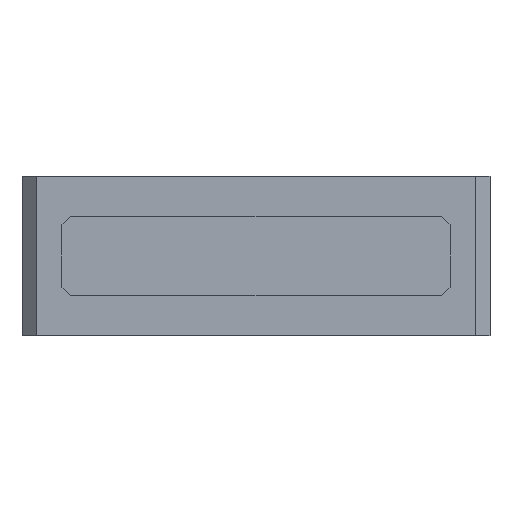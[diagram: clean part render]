
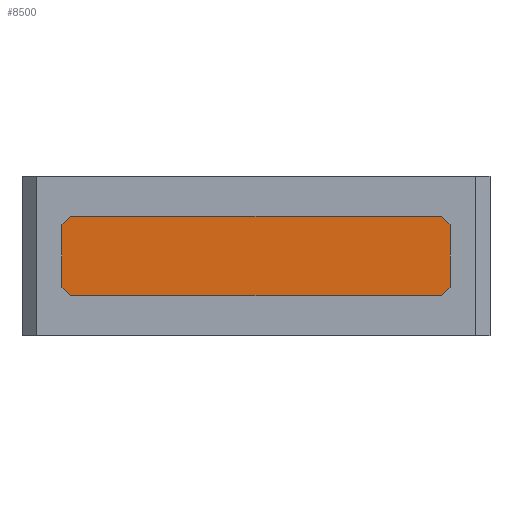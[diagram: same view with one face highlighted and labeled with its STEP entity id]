
A CAD part, front view. The second image highlights one B-rep face of the part: STEP entity #8500.
In plain terms, the highlighted planar face has unit normal (0, -1, 0).
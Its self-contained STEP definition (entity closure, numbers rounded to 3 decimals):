
#157 = PLANE('',#158);
#158 = AXIS2_PLACEMENT_3D('',#159,#160,#161);
#159 = CARTESIAN_POINT('',(-34.,-54.65,8.5));
#160 = DIRECTION('',(0.707,0.,0.707));
#161 = DIRECTION('',(0.707,0.,-0.707)
  );
#183 = PLANE('',#184);
#184 = AXIS2_PLACEMENT_3D('',#185,#186,#187);
#185 = CARTESIAN_POINT('',(-32.5,-54.65,7.));
#186 = DIRECTION('',(0.,0.,1.));
#187 = DIRECTION('',(1.,0.,0.));
#209 = PLANE('',#210);
#210 = AXIS2_PLACEMENT_3D('',#211,#212,#213);
#211 = CARTESIAN_POINT('',(32.5,-54.65,7.));
#212 = DIRECTION('',(-0.707,0.,0.707)
  );
#213 = DIRECTION('',(0.707,0.,0.707));
#235 = PLANE('',#236);
#236 = AXIS2_PLACEMENT_3D('',#237,#238,#239);
#237 = CARTESIAN_POINT('',(34.,-54.65,8.5));
#238 = DIRECTION('',(-1.,0.,0.));
#239 = DIRECTION('',(0.,0.,1.));
#261 = PLANE('',#262);
#262 = AXIS2_PLACEMENT_3D('',#263,#264,#265);
#263 = CARTESIAN_POINT('',(34.,-54.65,19.5));
#264 = DIRECTION('',(-0.707,0.,-0.707
    ));
#265 = DIRECTION('',(-0.707,0.,0.707)
  );
#287 = PLANE('',#288);
#288 = AXIS2_PLACEMENT_3D('',#289,#290,#291);
#289 = CARTESIAN_POINT('',(32.5,-54.65,21.));
#290 = DIRECTION('',(0.,0.,-1.));
#291 = DIRECTION('',(-1.,0.,0.));
#313 = PLANE('',#314);
#314 = AXIS2_PLACEMENT_3D('',#315,#316,#317);
#315 = CARTESIAN_POINT('',(-32.5,-54.65,21.));
#316 = DIRECTION('',(0.707,0.,-0.707)
  );
#317 = DIRECTION('',(-0.707,0.,-0.707
    ));
#337 = PLANE('',#338);
#338 = AXIS2_PLACEMENT_3D('',#339,#340,#341);
#339 = CARTESIAN_POINT('',(-34.,-54.65,19.5));
#340 = DIRECTION('',(1.,0.,0.));
#341 = DIRECTION('',(0.,0.,-1.));
#2588 = EDGE_CURVE('',#2589,#2591,#2593,.T.);
#2589 = VERTEX_POINT('',#2590);
#2590 = CARTESIAN_POINT('',(-34.,-54.65,8.5));
#2591 = VERTEX_POINT('',#2592);
#2592 = CARTESIAN_POINT('',(-32.5,-54.65,7.));
#2593 = SURFACE_CURVE('',#2594,(#2598,#2605),.PCURVE_S1.);
#2594 = LINE('',#2595,#2596);
#2595 = CARTESIAN_POINT('',(-34.,-54.65,8.5));
#2596 = VECTOR('',#2597,1.);
#2597 = DIRECTION('',(0.707,0.,-0.707
    ));
#2598 = PCURVE('',#157,#2599);
#2599 = DEFINITIONAL_REPRESENTATION('',(#2600),#2604);
#2600 = LINE('',#2601,#2602);
#2601 = CARTESIAN_POINT('',(0.,0.));
#2602 = VECTOR('',#2603,1.);
#2603 = DIRECTION('',(1.,0.));
#2604 = ( GEOMETRIC_REPRESENTATION_CONTEXT(2) 
PARAMETRIC_REPRESENTATION_CONTEXT() REPRESENTATION_CONTEXT('2D SPACE',''
  ) );
#2605 = PCURVE('',#2606,#2611);
#2606 = PLANE('',#2607);
#2607 = AXIS2_PLACEMENT_3D('',#2608,#2609,#2610);
#2608 = CARTESIAN_POINT('',(0.,-54.65,14.));
#2609 = DIRECTION('',(0.,-1.,0.));
#2610 = DIRECTION('',(1.,0.,0.));
#2611 = DEFINITIONAL_REPRESENTATION('',(#2612),#2616);
#2612 = LINE('',#2613,#2614);
#2613 = CARTESIAN_POINT('',(-34.,-5.5));
#2614 = VECTOR('',#2615,1.);
#2615 = DIRECTION('',(0.707,-0.707));
#2616 = ( GEOMETRIC_REPRESENTATION_CONTEXT(2) 
PARAMETRIC_REPRESENTATION_CONTEXT() REPRESENTATION_CONTEXT('2D SPACE',''
  ) );
#2664 = EDGE_CURVE('',#2665,#2589,#2667,.T.);
#2665 = VERTEX_POINT('',#2666);
#2666 = CARTESIAN_POINT('',(-34.,-54.65,19.5));
#2667 = SURFACE_CURVE('',#2668,(#2672,#2679),.PCURVE_S1.);
#2668 = LINE('',#2669,#2670);
#2669 = CARTESIAN_POINT('',(-34.,-54.65,19.5));
#2670 = VECTOR('',#2671,1.);
#2671 = DIRECTION('',(0.,0.,-1.));
#2672 = PCURVE('',#337,#2673);
#2673 = DEFINITIONAL_REPRESENTATION('',(#2674),#2678);
#2674 = LINE('',#2675,#2676);
#2675 = CARTESIAN_POINT('',(0.,0.));
#2676 = VECTOR('',#2677,1.);
#2677 = DIRECTION('',(1.,0.));
#2678 = ( GEOMETRIC_REPRESENTATION_CONTEXT(2) 
PARAMETRIC_REPRESENTATION_CONTEXT() REPRESENTATION_CONTEXT('2D SPACE',''
  ) );
#2679 = PCURVE('',#2606,#2680);
#2680 = DEFINITIONAL_REPRESENTATION('',(#2681),#2685);
#2681 = LINE('',#2682,#2683);
#2682 = CARTESIAN_POINT('',(-34.,5.5));
#2683 = VECTOR('',#2684,1.);
#2684 = DIRECTION('',(0.,-1.));
#2685 = ( GEOMETRIC_REPRESENTATION_CONTEXT(2) 
PARAMETRIC_REPRESENTATION_CONTEXT() REPRESENTATION_CONTEXT('2D SPACE',''
  ) );
#2713 = EDGE_CURVE('',#2714,#2665,#2716,.T.);
#2714 = VERTEX_POINT('',#2715);
#2715 = CARTESIAN_POINT('',(-32.5,-54.65,21.));
#2716 = SURFACE_CURVE('',#2717,(#2721,#2728),.PCURVE_S1.);
#2717 = LINE('',#2718,#2719);
#2718 = CARTESIAN_POINT('',(-32.5,-54.65,21.));
#2719 = VECTOR('',#2720,1.);
#2720 = DIRECTION('',(-0.707,0.,
    -0.707));
#2721 = PCURVE('',#313,#2722);
#2722 = DEFINITIONAL_REPRESENTATION('',(#2723),#2727);
#2723 = LINE('',#2724,#2725);
#2724 = CARTESIAN_POINT('',(0.,0.));
#2725 = VECTOR('',#2726,1.);
#2726 = DIRECTION('',(1.,0.));
#2727 = ( GEOMETRIC_REPRESENTATION_CONTEXT(2) 
PARAMETRIC_REPRESENTATION_CONTEXT() REPRESENTATION_CONTEXT('2D SPACE',''
  ) );
#2728 = PCURVE('',#2606,#2729);
#2729 = DEFINITIONAL_REPRESENTATION('',(#2730),#2734);
#2730 = LINE('',#2731,#2732);
#2731 = CARTESIAN_POINT('',(-32.5,7.));
#2732 = VECTOR('',#2733,1.);
#2733 = DIRECTION('',(-0.707,-0.707));
#2734 = ( GEOMETRIC_REPRESENTATION_CONTEXT(2) 
PARAMETRIC_REPRESENTATION_CONTEXT() REPRESENTATION_CONTEXT('2D SPACE',''
  ) );
#2762 = EDGE_CURVE('',#2763,#2714,#2765,.T.);
#2763 = VERTEX_POINT('',#2764);
#2764 = CARTESIAN_POINT('',(32.5,-54.65,21.));
#2765 = SURFACE_CURVE('',#2766,(#2770,#2777),.PCURVE_S1.);
#2766 = LINE('',#2767,#2768);
#2767 = CARTESIAN_POINT('',(32.5,-54.65,21.));
#2768 = VECTOR('',#2769,1.);
#2769 = DIRECTION('',(-1.,0.,0.));
#2770 = PCURVE('',#287,#2771);
#2771 = DEFINITIONAL_REPRESENTATION('',(#2772),#2776);
#2772 = LINE('',#2773,#2774);
#2773 = CARTESIAN_POINT('',(0.,-0.));
#2774 = VECTOR('',#2775,1.);
#2775 = DIRECTION('',(1.,0.));
#2776 = ( GEOMETRIC_REPRESENTATION_CONTEXT(2) 
PARAMETRIC_REPRESENTATION_CONTEXT() REPRESENTATION_CONTEXT('2D SPACE',''
  ) );
#2777 = PCURVE('',#2606,#2778);
#2778 = DEFINITIONAL_REPRESENTATION('',(#2779),#2783);
#2779 = LINE('',#2780,#2781);
#2780 = CARTESIAN_POINT('',(32.5,7.));
#2781 = VECTOR('',#2782,1.);
#2782 = DIRECTION('',(-1.,0.));
#2783 = ( GEOMETRIC_REPRESENTATION_CONTEXT(2) 
PARAMETRIC_REPRESENTATION_CONTEXT() REPRESENTATION_CONTEXT('2D SPACE',''
  ) );
#2811 = EDGE_CURVE('',#2812,#2763,#2814,.T.);
#2812 = VERTEX_POINT('',#2813);
#2813 = CARTESIAN_POINT('',(34.,-54.65,19.5));
#2814 = SURFACE_CURVE('',#2815,(#2819,#2826),.PCURVE_S1.);
#2815 = LINE('',#2816,#2817);
#2816 = CARTESIAN_POINT('',(34.,-54.65,19.5));
#2817 = VECTOR('',#2818,1.);
#2818 = DIRECTION('',(-0.707,0.,0.707)
  );
#2819 = PCURVE('',#261,#2820);
#2820 = DEFINITIONAL_REPRESENTATION('',(#2821),#2825);
#2821 = LINE('',#2822,#2823);
#2822 = CARTESIAN_POINT('',(0.,0.));
#2823 = VECTOR('',#2824,1.);
#2824 = DIRECTION('',(1.,0.));
#2825 = ( GEOMETRIC_REPRESENTATION_CONTEXT(2) 
PARAMETRIC_REPRESENTATION_CONTEXT() REPRESENTATION_CONTEXT('2D SPACE',''
  ) );
#2826 = PCURVE('',#2606,#2827);
#2827 = DEFINITIONAL_REPRESENTATION('',(#2828),#2832);
#2828 = LINE('',#2829,#2830);
#2829 = CARTESIAN_POINT('',(34.,5.5));
#2830 = VECTOR('',#2831,1.);
#2831 = DIRECTION('',(-0.707,0.707));
#2832 = ( GEOMETRIC_REPRESENTATION_CONTEXT(2) 
PARAMETRIC_REPRESENTATION_CONTEXT() REPRESENTATION_CONTEXT('2D SPACE',''
  ) );
#2860 = EDGE_CURVE('',#2861,#2812,#2863,.T.);
#2861 = VERTEX_POINT('',#2862);
#2862 = CARTESIAN_POINT('',(34.,-54.65,8.5));
#2863 = SURFACE_CURVE('',#2864,(#2868,#2875),.PCURVE_S1.);
#2864 = LINE('',#2865,#2866);
#2865 = CARTESIAN_POINT('',(34.,-54.65,8.5));
#2866 = VECTOR('',#2867,1.);
#2867 = DIRECTION('',(0.,0.,1.));
#2868 = PCURVE('',#235,#2869);
#2869 = DEFINITIONAL_REPRESENTATION('',(#2870),#2874);
#2870 = LINE('',#2871,#2872);
#2871 = CARTESIAN_POINT('',(0.,0.));
#2872 = VECTOR('',#2873,1.);
#2873 = DIRECTION('',(1.,0.));
#2874 = ( GEOMETRIC_REPRESENTATION_CONTEXT(2) 
PARAMETRIC_REPRESENTATION_CONTEXT() REPRESENTATION_CONTEXT('2D SPACE',''
  ) );
#2875 = PCURVE('',#2606,#2876);
#2876 = DEFINITIONAL_REPRESENTATION('',(#2877),#2881);
#2877 = LINE('',#2878,#2879);
#2878 = CARTESIAN_POINT('',(34.,-5.5));
#2879 = VECTOR('',#2880,1.);
#2880 = DIRECTION('',(0.,1.));
#2881 = ( GEOMETRIC_REPRESENTATION_CONTEXT(2) 
PARAMETRIC_REPRESENTATION_CONTEXT() REPRESENTATION_CONTEXT('2D SPACE',''
  ) );
#2909 = EDGE_CURVE('',#2910,#2861,#2912,.T.);
#2910 = VERTEX_POINT('',#2911);
#2911 = CARTESIAN_POINT('',(32.5,-54.65,7.));
#2912 = SURFACE_CURVE('',#2913,(#2917,#2924),.PCURVE_S1.);
#2913 = LINE('',#2914,#2915);
#2914 = CARTESIAN_POINT('',(32.5,-54.65,7.));
#2915 = VECTOR('',#2916,1.);
#2916 = DIRECTION('',(0.707,0.,0.707)
  );
#2917 = PCURVE('',#209,#2918);
#2918 = DEFINITIONAL_REPRESENTATION('',(#2919),#2923);
#2919 = LINE('',#2920,#2921);
#2920 = CARTESIAN_POINT('',(0.,0.));
#2921 = VECTOR('',#2922,1.);
#2922 = DIRECTION('',(1.,0.));
#2923 = ( GEOMETRIC_REPRESENTATION_CONTEXT(2) 
PARAMETRIC_REPRESENTATION_CONTEXT() REPRESENTATION_CONTEXT('2D SPACE',''
  ) );
#2924 = PCURVE('',#2606,#2925);
#2925 = DEFINITIONAL_REPRESENTATION('',(#2926),#2930);
#2926 = LINE('',#2927,#2928);
#2927 = CARTESIAN_POINT('',(32.5,-7.));
#2928 = VECTOR('',#2929,1.);
#2929 = DIRECTION('',(0.707,0.707));
#2930 = ( GEOMETRIC_REPRESENTATION_CONTEXT(2) 
PARAMETRIC_REPRESENTATION_CONTEXT() REPRESENTATION_CONTEXT('2D SPACE',''
  ) );
#2958 = EDGE_CURVE('',#2591,#2910,#2959,.T.);
#2959 = SURFACE_CURVE('',#2960,(#2964,#2971),.PCURVE_S1.);
#2960 = LINE('',#2961,#2962);
#2961 = CARTESIAN_POINT('',(-32.5,-54.65,7.));
#2962 = VECTOR('',#2963,1.);
#2963 = DIRECTION('',(1.,0.,0.));
#2964 = PCURVE('',#183,#2965);
#2965 = DEFINITIONAL_REPRESENTATION('',(#2966),#2970);
#2966 = LINE('',#2967,#2968);
#2967 = CARTESIAN_POINT('',(0.,0.));
#2968 = VECTOR('',#2969,1.);
#2969 = DIRECTION('',(1.,0.));
#2970 = ( GEOMETRIC_REPRESENTATION_CONTEXT(2) 
PARAMETRIC_REPRESENTATION_CONTEXT() REPRESENTATION_CONTEXT('2D SPACE',''
  ) );
#2971 = PCURVE('',#2606,#2972);
#2972 = DEFINITIONAL_REPRESENTATION('',(#2973),#2977);
#2973 = LINE('',#2974,#2975);
#2974 = CARTESIAN_POINT('',(-32.5,-7.));
#2975 = VECTOR('',#2976,1.);
#2976 = DIRECTION('',(1.,0.));
#2977 = ( GEOMETRIC_REPRESENTATION_CONTEXT(2) 
PARAMETRIC_REPRESENTATION_CONTEXT() REPRESENTATION_CONTEXT('2D SPACE',''
  ) );
#8500 = ADVANCED_FACE('',(#8501),#2606,.T.);
#8501 = FACE_BOUND('',#8502,.T.);
#8502 = EDGE_LOOP('',(#8503,#8504,#8505,#8506,#8507,#8508,#8509,#8510));
#8503 = ORIENTED_EDGE('',*,*,#2958,.T.);
#8504 = ORIENTED_EDGE('',*,*,#2909,.T.);
#8505 = ORIENTED_EDGE('',*,*,#2860,.T.);
#8506 = ORIENTED_EDGE('',*,*,#2811,.T.);
#8507 = ORIENTED_EDGE('',*,*,#2762,.T.);
#8508 = ORIENTED_EDGE('',*,*,#2713,.T.);
#8509 = ORIENTED_EDGE('',*,*,#2664,.T.);
#8510 = ORIENTED_EDGE('',*,*,#2588,.T.);
